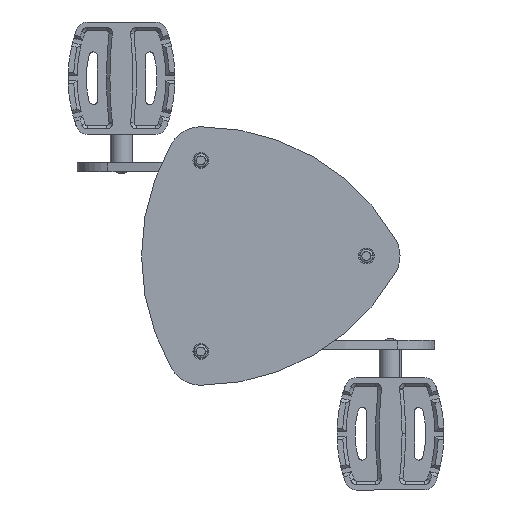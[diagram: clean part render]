
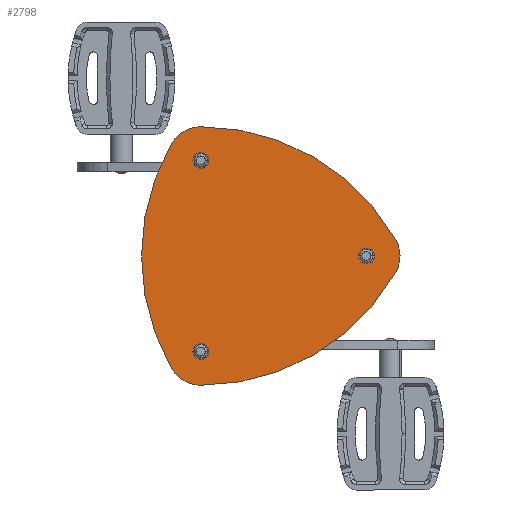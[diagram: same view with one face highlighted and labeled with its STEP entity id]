
A CAD part, front view. The second image highlights one B-rep face of the part: STEP entity #2798.
In plain terms, the highlighted planar face has unit normal (0, -1, 0).
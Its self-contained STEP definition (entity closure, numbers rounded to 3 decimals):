
#251 = ORIENTED_EDGE ( 'NONE', *, *, #5880, .F. ) ;
#431 = AXIS2_PLACEMENT_3D ( 'NONE', #12391, #12738, #9763 ) ;
#550 = ORIENTED_EDGE ( 'NONE', *, *, #16400, .F. ) ;
#568 = ORIENTED_EDGE ( 'NONE', *, *, #1700, .T. ) ;
#999 = CIRCLE ( 'NONE', #10879, 30. ) ;
#1225 = CARTESIAN_POINT ( 'NONE',  ( -75.056, 0., 100. ) ) ;
#1316 = VERTEX_POINT ( 'NONE', #4043 ) ;
#1368 = CARTESIAN_POINT ( 'NONE',  ( -49.075, 0., -85. ) ) ;
#1400 = CARTESIAN_POINT ( 'NONE',  ( 98.15, 0., 7. ) ) ;
#1452 = AXIS2_PLACEMENT_3D ( 'NONE', #13493, #5585, #10962 ) ;
#1497 = EDGE_CURVE ( 'NONE', #8295, #15520, #8047, .T. ) ;
#1605 = DIRECTION ( 'NONE',  ( 0., 0., -1. ) ) ;
#1655 = AXIS2_PLACEMENT_3D ( 'NONE', #6416, #8964, #11691 ) ;
#1700 = EDGE_CURVE ( 'NONE', #16073, #13656, #7489, .T. ) ;
#1726 = ORIENTED_EDGE ( 'NONE', *, *, #16066, .T. ) ;
#2691 = CIRCLE ( 'NONE', #14475, 7. ) ;
#2798 = ADVANCED_FACE ( 'NONE', ( #11892, #5291, #5381, #14705 ), #9256, .T. ) ;
#2865 = DIRECTION ( 'NONE',  ( 0., 0., 1. ) ) ;
#3253 = ORIENTED_EDGE ( 'NONE', *, *, #8199, .F. ) ;
#3737 = EDGE_LOOP ( 'NONE', ( #5617, #10593 ) ) ;
#3929 = DIRECTION ( 'NONE',  ( 0., 0., 1. ) ) ;
#3943 = CARTESIAN_POINT ( 'NONE',  ( -49.075, 0., 85. ) ) ;
#4043 = CARTESIAN_POINT ( 'NONE',  ( -49.075, 0., -92. ) ) ;
#4057 = DIRECTION ( 'NONE',  ( 0., -1., 0. ) ) ;
#4519 = DIRECTION ( 'NONE',  ( 0., 1., 0. ) ) ;
#4685 = EDGE_CURVE ( 'NONE', #1316, #14520, #11684, .T. ) ;
#4773 = EDGE_LOOP ( 'NONE', ( #1726, #7242 ) ) ;
#4790 = CIRCLE ( 'NONE', #7912, 200. ) ;
#4822 = CIRCLE ( 'NONE', #1452, 200. ) ;
#5172 = DIRECTION ( 'NONE',  ( 0., 1., 0. ) ) ;
#5219 = CARTESIAN_POINT ( 'NONE',  ( -49.075, 0., -85. ) ) ;
#5231 = AXIS2_PLACEMENT_3D ( 'NONE', #15100, #5615, #8507 ) ;
#5291 = FACE_OUTER_BOUND ( 'NONE', #10125, .T. ) ;
#5381 = FACE_BOUND ( 'NONE', #4773, .T. ) ;
#5585 = DIRECTION ( 'NONE',  ( 0., 1., 0. ) ) ;
#5615 = DIRECTION ( 'NONE',  ( 0., 1., 0. ) ) ;
#5617 = ORIENTED_EDGE ( 'NONE', *, *, #12075, .T. ) ;
#5880 = EDGE_CURVE ( 'NONE', #9923, #8613, #10047, .T. ) ;
#5952 = CIRCLE ( 'NONE', #14934, 7. ) ;
#6011 = CARTESIAN_POINT ( 'NONE',  ( -49.075, 0., -78. ) ) ;
#6416 = CARTESIAN_POINT ( 'NONE',  ( -49.075, 0., -85. ) ) ;
#6955 = AXIS2_PLACEMENT_3D ( 'NONE', #5219, #10610, #15952 ) ;
#7079 = CARTESIAN_POINT ( 'NONE',  ( 98.15, 0., 0. ) ) ;
#7113 = ORIENTED_EDGE ( 'NONE', *, *, #12818, .F. ) ;
#7198 = CIRCLE ( 'NONE', #11695, 7. ) ;
#7242 = ORIENTED_EDGE ( 'NONE', *, *, #13537, .T. ) ;
#7489 = CIRCLE ( 'NONE', #5231, 7. ) ;
#7627 = DIRECTION ( 'NONE',  ( 0., 1., 0. ) ) ;
#7756 = VERTEX_POINT ( 'NONE', #10649 ) ;
#7779 = CARTESIAN_POINT ( 'NONE',  ( -49.075, 0., 92. ) ) ;
#7912 = AXIS2_PLACEMENT_3D ( 'NONE', #9250, #14701, #11805 ) ;
#8047 = CIRCLE ( 'NONE', #431, 30. ) ;
#8111 = VERTEX_POINT ( 'NONE', #7779 ) ;
#8131 = EDGE_LOOP ( 'NONE', ( #8632, #568 ) ) ;
#8132 = CIRCLE ( 'NONE', #1655, 200. ) ;
#8199 = EDGE_CURVE ( 'NONE', #8613, #12826, #4822, .T. ) ;
#8235 = AXIS2_PLACEMENT_3D ( 'NONE', #10581, #4057, #11977 ) ;
#8295 = VERTEX_POINT ( 'NONE', #8897 ) ;
#8328 = AXIS2_PLACEMENT_3D ( 'NONE', #1368, #17284, #3929 ) ;
#8507 = DIRECTION ( 'NONE',  ( 0., 0., -1. ) ) ;
#8613 = VERTEX_POINT ( 'NONE', #14152 ) ;
#8632 = ORIENTED_EDGE ( 'NONE', *, *, #10116, .T. ) ;
#8897 = CARTESIAN_POINT ( 'NONE',  ( 124.13, 0., 15. ) ) ;
#8964 = DIRECTION ( 'NONE',  ( 0., 1., 0. ) ) ;
#8976 = AXIS2_PLACEMENT_3D ( 'NONE', #14568, #10716, #2865 ) ;
#9250 = CARTESIAN_POINT ( 'NONE',  ( -49.075, 0., 85. ) ) ;
#9256 = PLANE ( 'NONE',  #8235 ) ;
#9275 = VERTEX_POINT ( 'NONE', #16759 ) ;
#9763 = DIRECTION ( 'NONE',  ( 0., 0., -1. ) ) ;
#9923 = VERTEX_POINT ( 'NONE', #16131 ) ;
#10047 = CIRCLE ( 'NONE', #6955, 30. ) ;
#10116 = EDGE_CURVE ( 'NONE', #13656, #16073, #2691, .T. ) ;
#10125 = EDGE_LOOP ( 'NONE', ( #3253, #251, #7113, #16736, #12372, #550 ) ) ;
#10306 = CARTESIAN_POINT ( 'NONE',  ( -49.075, 0., 85. ) ) ;
#10481 = DIRECTION ( 'NONE',  ( 0., 0., -1. ) ) ;
#10581 = CARTESIAN_POINT ( 'NONE',  ( 24.537, 0., -42.5 ) ) ;
#10593 = ORIENTED_EDGE ( 'NONE', *, *, #4685, .T. ) ;
#10610 = DIRECTION ( 'NONE',  ( 0., 1., 0. ) ) ;
#10649 = CARTESIAN_POINT ( 'NONE',  ( -49.075, 0., 78. ) ) ;
#10716 = DIRECTION ( 'NONE',  ( 0., 1., 0. ) ) ;
#10743 = CARTESIAN_POINT ( 'NONE',  ( 98.15, 0., -7. ) ) ;
#10879 = AXIS2_PLACEMENT_3D ( 'NONE', #14302, #7627, #12979 ) ;
#10962 = DIRECTION ( 'NONE',  ( 0., 0., 1. ) ) ;
#11596 = EDGE_CURVE ( 'NONE', #9275, #8295, #8132, .T. ) ;
#11684 = CIRCLE ( 'NONE', #8328, 7. ) ;
#11691 = DIRECTION ( 'NONE',  ( 0., 0., -1. ) ) ;
#11695 = AXIS2_PLACEMENT_3D ( 'NONE', #3943, #5172, #11786 ) ;
#11786 = DIRECTION ( 'NONE',  ( 0., 0., -1. ) ) ;
#11805 = DIRECTION ( 'NONE',  ( 0., 0., 1. ) ) ;
#11892 = FACE_BOUND ( 'NONE', #3737, .T. ) ;
#11977 = DIRECTION ( 'NONE',  ( 0., 0., 1. ) ) ;
#12075 = EDGE_CURVE ( 'NONE', #14520, #1316, #16547, .T. ) ;
#12372 = ORIENTED_EDGE ( 'NONE', *, *, #11596, .F. ) ;
#12391 = CARTESIAN_POINT ( 'NONE',  ( 98.15, 0., 0. ) ) ;
#12738 = DIRECTION ( 'NONE',  ( 0., 1., 0. ) ) ;
#12818 = EDGE_CURVE ( 'NONE', #15520, #9923, #4790, .T. ) ;
#12826 = VERTEX_POINT ( 'NONE', #1225 ) ;
#12979 = DIRECTION ( 'NONE',  ( 0., 0., -1. ) ) ;
#13493 = CARTESIAN_POINT ( 'NONE',  ( 98.15, 0., 0. ) ) ;
#13537 = EDGE_CURVE ( 'NONE', #7756, #8111, #5952, .T. ) ;
#13656 = VERTEX_POINT ( 'NONE', #1400 ) ;
#13754 = CARTESIAN_POINT ( 'NONE',  ( 124.13, 0., -15. ) ) ;
#14152 = CARTESIAN_POINT ( 'NONE',  ( -75.056, 0., -100. ) ) ;
#14302 = CARTESIAN_POINT ( 'NONE',  ( -49.075, 0., 85. ) ) ;
#14475 = AXIS2_PLACEMENT_3D ( 'NONE', #7079, #4519, #1605 ) ;
#14520 = VERTEX_POINT ( 'NONE', #6011 ) ;
#14568 = CARTESIAN_POINT ( 'NONE',  ( -49.075, 0., -85. ) ) ;
#14701 = DIRECTION ( 'NONE',  ( 0., 1., 0. ) ) ;
#14705 = FACE_BOUND ( 'NONE', #8131, .T. ) ;
#14934 = AXIS2_PLACEMENT_3D ( 'NONE', #10306, #15642, #10481 ) ;
#15100 = CARTESIAN_POINT ( 'NONE',  ( 98.15, 0., 0. ) ) ;
#15520 = VERTEX_POINT ( 'NONE', #13754 ) ;
#15642 = DIRECTION ( 'NONE',  ( 0., 1., 0. ) ) ;
#15952 = DIRECTION ( 'NONE',  ( 0., 0., 1. ) ) ;
#16066 = EDGE_CURVE ( 'NONE', #8111, #7756, #7198, .T. ) ;
#16073 = VERTEX_POINT ( 'NONE', #10743 ) ;
#16131 = CARTESIAN_POINT ( 'NONE',  ( -49.075, 0., -115. ) ) ;
#16400 = EDGE_CURVE ( 'NONE', #12826, #9275, #999, .T. ) ;
#16547 = CIRCLE ( 'NONE', #8976, 7. ) ;
#16736 = ORIENTED_EDGE ( 'NONE', *, *, #1497, .F. ) ;
#16759 = CARTESIAN_POINT ( 'NONE',  ( -49.075, 0., 115. ) ) ;
#17284 = DIRECTION ( 'NONE',  ( 0., 1., 0. ) ) ;
